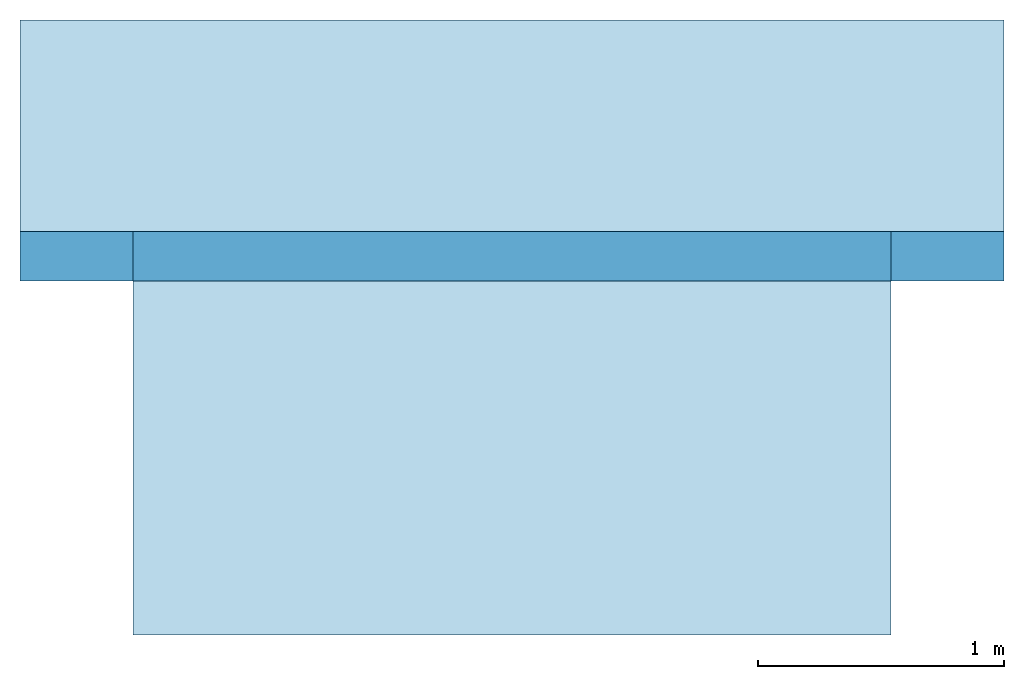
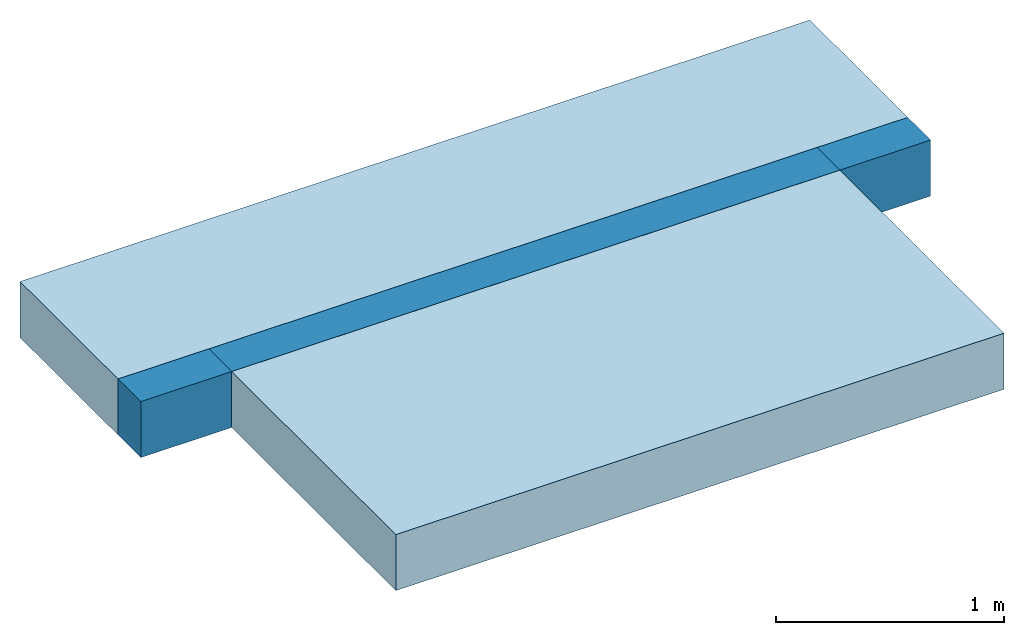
# One storey: 2 slabs, 2 walls, 1 beam.
"""IFC4 building model written with IfcOpenShell, lengths in metres."""

from ifc_helpers import new_model, entity, si_unit, converted_unit, derived_unit, frame, frame_2d, origin, origin_with_axes, place, context, subcontext, project, spatial, rectangle, extrude, material, layer, layer_set, layer_usage, element, save


model = new_model("IFC4")

# Units and contexts
model_context = context("Model", 3, precision=1e-05, world=origin())
body_context = subcontext(model_context, "Body", "Model", "MODEL_VIEW")
ifc_project = project(units=[si_unit("LENGTHUNIT", "METRE"), si_unit("AREAUNIT", "SQUARE_METRE"), si_unit("VOLUMEUNIT", "CUBIC_METRE"), si_unit("MASSUNIT", "GRAM", prefix="KILO"), converted_unit("PLANEANGLEUNIT", "DEGREE", entity("IfcPlaneAngleMeasure", 0.0174532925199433), si_unit("PLANEANGLEUNIT", "RADIAN"), dimensions=[0, 0, 0, 0, 0, 0, 0]), derived_unit("THERMALTRANSMITTANCEUNIT", [(si_unit("POWERUNIT", "WATT"), 1), (si_unit("THERMODYNAMICTEMPERATUREUNIT", "KELVIN"), -1), (si_unit("LENGTHUNIT", "METRE"), -2)]), derived_unit("VOLUMETRICFLOWRATEUNIT", [(si_unit("LENGTHUNIT", "METRE"), 3), (converted_unit("TIMEUNIT", "hour", entity("IfcTimeMeasure", 3600.0), si_unit("TIMEUNIT", "SECOND"), dimensions=[0, 0, 1, 0, 0, 0, 0]), -1), (si_unit("LENGTHUNIT", "METRE"), -1)])], contexts=[model_context])

# Site, building, storey
site_placement = place(None, origin())
site = spatial("IfcSite", under=ifc_project, at=site_placement, Name="Liegenschaft", CompositionType="ELEMENT")
building_placement = place(site_placement, origin())
building = spatial("IfcBuilding", under=site, at=building_placement, Name="Gebäude", CompositionType="ELEMENT")
storey_placement = place(building_placement, origin())
storey = spatial("IfcBuildingStorey", under=building, at=storey_placement, Name="Geschoss 01", CompositionType="ELEMENT", Elevation=0.0)

# Beam
ifc_material_1 = material(Name="Mineralwolledämmung")
beam_placement = place(storey_placement, frame((259.808222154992, 1.49253790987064, 0.0)))
element("IfcBeam", 1, at=beam_placement, inside=storey, material=ifc_material_1, PredefinedType="NOTDEFINED", context=body_context, shape_type="SweptSolid", body=[
    extrude(rectangle(XDim=0.2, YDim=0.3, at=frame_2d((0.1, 0.15), x_axis=(1.0, 0.0))), frame((0.0, 0.0, 0.0), z_axis=(1.0, 0.0, 0.0), x_axis=(0.0, 1.0, 0.0)), (0.0, 0.0, 1.0), 3.08),
])

# Slabs
slab_1_placement = place(storey_placement, frame((259.808222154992, 0.0525379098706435, 0.0)))
element("IfcSlab", 2, at=slab_1_placement, inside=storey, PredefinedType="FLOOR", context=body_context, shape_type="SweptSolid", body=[
    extrude(rectangle(XDim=1.44, YDim=3.08, at=frame_2d((1.54, -0.720000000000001), x_axis=(0.0, -1.0))), frame((0.0, 1.44, 0.0), z_axis=(0.0, 0.0, 1.0), x_axis=(1.0, 0.0, 0.0)), (0.0, 0.0, 1.0), 0.3),
])
slab_2_placement = place(storey_placement, frame((259.348222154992, 1.69253790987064, 0.0)))
element("IfcSlab", 3, at=slab_2_placement, inside=storey, PredefinedType="FLOOR", context=body_context, shape_type="SweptSolid", body=[
    extrude(rectangle(XDim=0.86, YDim=4.0, at=frame_2d((2.0, -0.43), x_axis=(0.0, -1.0))), frame((0.0, 0.86, 0.0), z_axis=(0.0, 0.0, 1.0), x_axis=(1.0, 0.0, 0.0)), (0.0, 0.0, 1.0), 0.3),
])

# Walls
ifc_material_2 = material()
ifc_layer_1 = layer(ifc_material_2, 0.200000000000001)
ifc_layer_set_1 = layer_set([ifc_layer_1])
ifc_layer_usage_1 = layer_usage(ifc_layer_set_1, "AXIS2", "POSITIVE", -0.200000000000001)
wall_1_placement = place(storey_placement, frame((259.348222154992, 1.49253790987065, 0.0)))
element("IfcWall", 4, at=wall_1_placement, inside=storey, material=ifc_layer_usage_1, context=body_context, shape_type="SweptSolid", body=[
    extrude(rectangle(XDim=0.46, YDim=0.200000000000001, at=frame_2d((0.23, 0.1), x_axis=(1.0, 0.0))), origin_with_axes(), (0.0, 0.0, 1.0), 0.3),
])
ifc_material_3 = material()
ifc_layer_2 = layer(ifc_material_3, 0.200000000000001)
ifc_layer_set_2 = layer_set([ifc_layer_2])
ifc_layer_usage_2 = layer_usage(ifc_layer_set_2, "AXIS2", "POSITIVE", -0.200000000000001)
wall_2_placement = place(storey_placement, frame((262.888222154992, 1.49253790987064, 0.0)))
element("IfcWall", 5, at=wall_2_placement, inside=storey, material=ifc_layer_usage_2, context=body_context, shape_type="SweptSolid", body=[
    extrude(rectangle(XDim=0.46, YDim=0.200000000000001, at=frame_2d((0.23, 0.1), x_axis=(1.0, 0.0))), origin_with_axes(), (0.0, 0.0, 1.0), 0.3),
])

save(model, "model.ifc")
